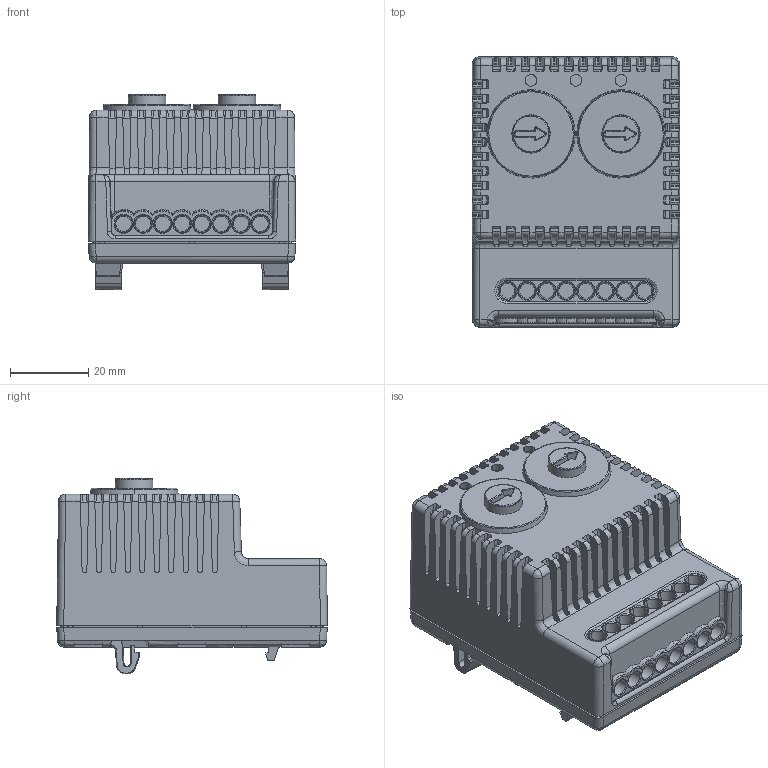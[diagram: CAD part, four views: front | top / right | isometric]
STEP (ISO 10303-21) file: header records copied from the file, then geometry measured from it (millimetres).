
FILE_DESCRIPTION(/* description */ (''),/* implementation_level */ '2;1');
FILE_NAME(/* name */ 'ETUH',/* time_stamp */ '2023-04-06T16:36:10+02:00',/* author */ (''),/* organization */ (''),/* preprocessor_version */ 'ST-DEVELOPER v16.5',/* originating_system */ '',/* authorisation */ '');
FILE_SCHEMA (('AUTOMOTIVE_DESIGN'));
Length unit declared in the file: millimetre
Products named in the file (1): Document
Bounding box: 53 x 69.2 x 50.04 mm (x, y, z)
Volume: 123817.8 mm3; surface area: 29727 mm2
Topology: 4 solids, 4 shells, 1107 faces, 2972 edges, 1900 vertices
Faces by surface type: bspline 659, plane 448
Entity records: 59684 total; most frequent: CARTESIAN_POINT 42384, ORIENTED_EDGE 5940, EDGE_CURVE 2970, VERTEX_POINT 1900, B_SPLINE_CURVE_WITH_KNOTS 1650, EDGE_LOOP 1136, ADVANCED_FACE 1107, FACE_OUTER_BOUND 1107
